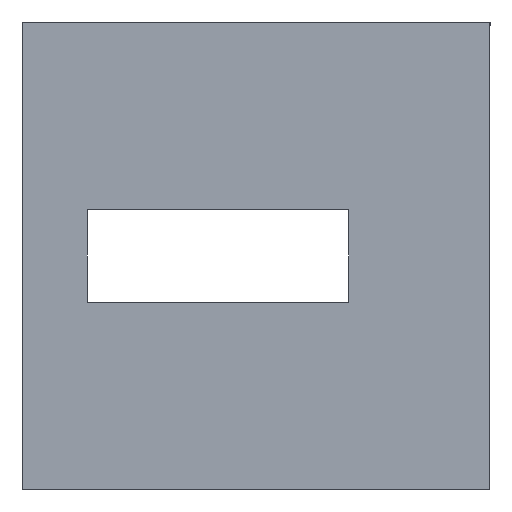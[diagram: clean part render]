
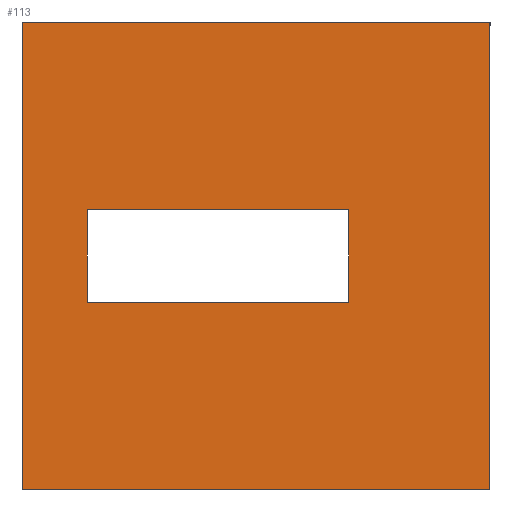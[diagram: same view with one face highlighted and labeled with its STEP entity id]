
A CAD part, left-side view. The second image highlights one B-rep face of the part: STEP entity #113.
In plain terms, the highlighted planar face has unit normal (-1, 0, 0).
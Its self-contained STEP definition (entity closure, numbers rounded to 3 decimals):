
#1 = VERTEX_POINT ( 'NONE', #159 ) ;
#4 = EDGE_CURVE ( 'NONE', #105, #17, #254, .T. ) ;
#8 = ORIENTED_EDGE ( 'NONE', *, *, #88, .T. ) ;
#17 = VERTEX_POINT ( 'NONE', #305 ) ;
#33 = EDGE_CURVE ( 'NONE', #94, #35, #287, .T. ) ;
#35 = VERTEX_POINT ( 'NONE', #283 ) ;
#38 = EDGE_CURVE ( 'NONE', #40, #105, #284, .T. ) ;
#39 = ORIENTED_EDGE ( 'NONE', *, *, #108, .F. ) ;
#40 = VERTEX_POINT ( 'NONE', #290 ) ;
#41 = ORIENTED_EDGE ( 'NONE', *, *, #4, .T. ) ;
#88 = EDGE_CURVE ( 'NONE', #1, #94, #322, .T. ) ;
#94 = VERTEX_POINT ( 'NONE', #376 ) ;
#104 = EDGE_CURVE ( 'NONE', #17, #157, #298, .T. ) ;
#105 = VERTEX_POINT ( 'NONE', #340 ) ;
#106 = ORIENTED_EDGE ( 'NONE', *, *, #33, .T. ) ;
#108 = EDGE_CURVE ( 'NONE', #1, #207, #335, .T. ) ;
#113 = ADVANCED_FACE ( 'NONE', ( #424, #422 ), #418, .F. ) ;
#114 = EDGE_LOOP ( 'NONE', ( #41, #227, #209, #156 ) ) ;
#144 = EDGE_CURVE ( 'NONE', #157, #40, #460, .T. ) ;
#155 = EDGE_LOOP ( 'NONE', ( #106, #180, #39, #8 ) ) ;
#156 = ORIENTED_EDGE ( 'NONE', *, *, #38, .T. ) ;
#157 = VERTEX_POINT ( 'NONE', #496 ) ;
#158 = CARTESIAN_POINT ( 'NONE',  ( -43., 37., 4.25 ) ) ;
#159 = CARTESIAN_POINT ( 'NONE',  ( -43., 43., 21.5 ) ) ;
#180 = ORIENTED_EDGE ( 'NONE', *, *, #181, .F. ) ;
#181 = EDGE_CURVE ( 'NONE', #207, #35, #518, .T. ) ;
#207 = VERTEX_POINT ( 'NONE', #561 ) ;
#209 = ORIENTED_EDGE ( 'NONE', *, *, #144, .T. ) ;
#227 = ORIENTED_EDGE ( 'NONE', *, *, #104, .T. ) ;
#252 = DIRECTION ( 'NONE',  ( 0., 0., 1. ) ) ;
#253 = VECTOR ( 'NONE', #252, 1000. ) ;
#254 = LINE ( 'NONE', #158, #253 ) ;
#283 = CARTESIAN_POINT ( 'NONE',  ( -43., 0., -21.5 ) ) ;
#284 = LINE ( 'NONE', #348, #347 ) ;
#285 = DIRECTION ( 'NONE',  ( 0., -1., 0. ) ) ;
#286 = VECTOR ( 'NONE', #285, 1000. ) ;
#287 = LINE ( 'NONE', #370, #286 ) ;
#290 = CARTESIAN_POINT ( 'NONE',  ( -43., 13., -4.25 ) ) ;
#298 = LINE ( 'NONE', #303, #338 ) ;
#303 = CARTESIAN_POINT ( 'NONE',  ( -43., 37., 4.25 ) ) ;
#305 = CARTESIAN_POINT ( 'NONE',  ( -43., 37., 4.25 ) ) ;
#317 = DIRECTION ( 'NONE',  ( 0., 0., -1. ) ) ;
#318 = VECTOR ( 'NONE', #317, 1000. ) ;
#321 = CARTESIAN_POINT ( 'NONE',  ( -43., 43., 21.5 ) ) ;
#322 = LINE ( 'NONE', #321, #318 ) ;
#334 = CARTESIAN_POINT ( 'NONE',  ( -43., 0., 21.5 ) ) ;
#335 = LINE ( 'NONE', #334, #427 ) ;
#337 = DIRECTION ( 'NONE',  ( 0., -1., 0. ) ) ;
#338 = VECTOR ( 'NONE', #337, 1000. ) ;
#340 = CARTESIAN_POINT ( 'NONE',  ( -43., 37., -4.25 ) ) ;
#346 = DIRECTION ( 'NONE',  ( 0., 1., 0. ) ) ;
#347 = VECTOR ( 'NONE', #346, 1000. ) ;
#348 = CARTESIAN_POINT ( 'NONE',  ( -43., 37., -4.25 ) ) ;
#370 = CARTESIAN_POINT ( 'NONE',  ( -43., 0., -21.5 ) ) ;
#376 = CARTESIAN_POINT ( 'NONE',  ( -43., 43., -21.5 ) ) ;
#410 = DIRECTION ( 'NONE',  ( 0., 0., -1. ) ) ;
#411 = DIRECTION ( 'NONE',  ( 1., 0., 0. ) ) ;
#412 = CARTESIAN_POINT ( 'NONE',  ( -43., 0., 21.5 ) ) ;
#413 = AXIS2_PLACEMENT_3D ( 'NONE', #412, #411, #410 ) ;
#418 = PLANE ( 'NONE',  #413 ) ;
#422 = FACE_OUTER_BOUND ( 'NONE', #155, .T. ) ;
#424 = FACE_BOUND ( 'NONE', #114, .T. ) ;
#426 = DIRECTION ( 'NONE',  ( 0., -1., 0. ) ) ;
#427 = VECTOR ( 'NONE', #426, 1000. ) ;
#460 = LINE ( 'NONE', #478, #477 ) ;
#470 = DIRECTION ( 'NONE',  ( 0., 0., -1. ) ) ;
#477 = VECTOR ( 'NONE', #470, 1000. ) ;
#478 = CARTESIAN_POINT ( 'NONE',  ( -43., 13., 4.25 ) ) ;
#496 = CARTESIAN_POINT ( 'NONE',  ( -43., 13., 4.25 ) ) ;
#516 = DIRECTION ( 'NONE',  ( 0., 0., -1. ) ) ;
#517 = VECTOR ( 'NONE', #516, 1000. ) ;
#518 = LINE ( 'NONE', #525, #517 ) ;
#525 = CARTESIAN_POINT ( 'NONE',  ( -43., 0., 21.5 ) ) ;
#561 = CARTESIAN_POINT ( 'NONE',  ( -43., 0., 21.5 ) ) ;
